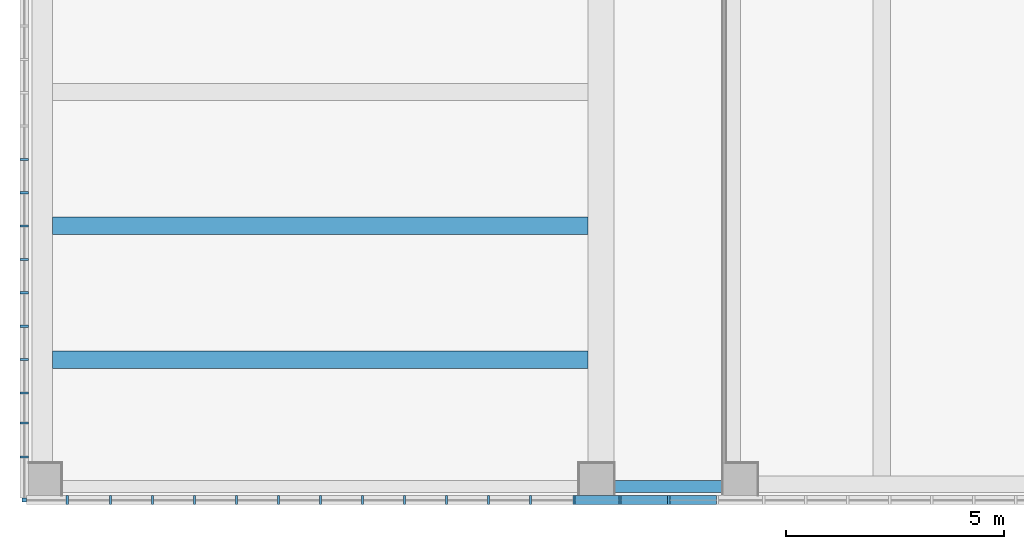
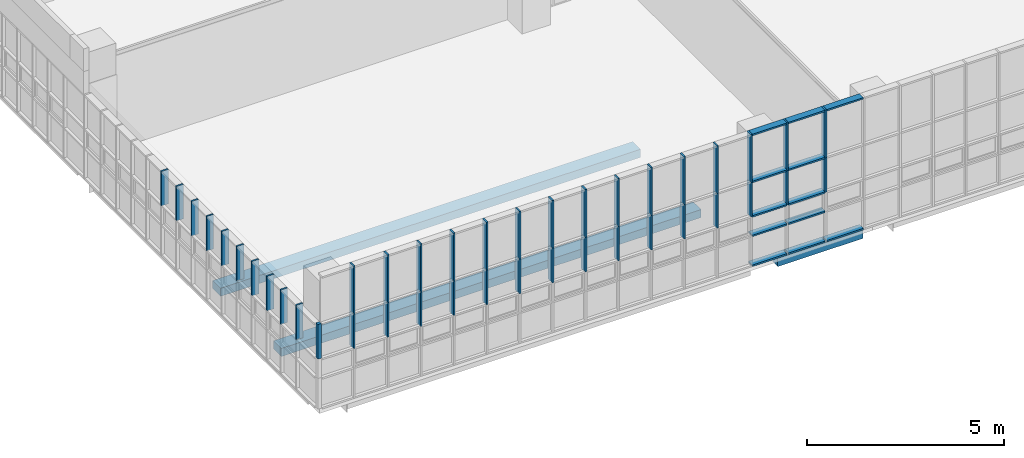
# One storey, part 2 of 76: 53 members, 3 beams, 2 elements without a shape of their own.
"""IFC2X3 building model written with IfcOpenShell, lengths in millimetres."""

from ifc_helpers import new_model, entity, si_unit, converted_unit, derived_unit, direction, frame, frame_2d, origin, origin_2d_with_axis, place, context, subcontext, project, spatial, rectangle, extrude, source, transform, mapped, material, type_object, type_shapes, element, aggregate, save


model = new_model("IFC2X3")

# Units and contexts
model_context = context("Model", 3, precision=0.01, world=origin(), true_north=direction((6.123031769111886e-17, 1.0)))
body_context = subcontext(model_context, "Body", "Model", "MODEL_VIEW")
ifc_project = project(units=[si_unit("LENGTHUNIT", "METRE", prefix="MILLI"), si_unit("AREAUNIT", "SQUARE_METRE"), si_unit("VOLUMEUNIT", "CUBIC_METRE"), converted_unit("PLANEANGLEUNIT", "DEGREE", entity("IfcRatioMeasure", 0.017453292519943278), si_unit("PLANEANGLEUNIT", "RADIAN"), dimensions=[0, 0, 0, 0, 0, 0, 0]), si_unit("MASSUNIT", "GRAM", prefix="KILO"), derived_unit("MASSDENSITYUNIT", [(si_unit("MASSUNIT", "GRAM", prefix="KILO"), 1), (si_unit("LENGTHUNIT", "METRE"), -3)]), derived_unit("MOMENTOFINERTIAUNIT", [(si_unit("LENGTHUNIT", "METRE"), 4)]), si_unit("TIMEUNIT", "SECOND"), si_unit("FREQUENCYUNIT", "HERTZ"), si_unit("THERMODYNAMICTEMPERATUREUNIT", "DEGREE_CELSIUS"), derived_unit("THERMALTRANSMITTANCEUNIT", [(si_unit("MASSUNIT", "GRAM", prefix="KILO"), 1), (si_unit("THERMODYNAMICTEMPERATUREUNIT", "KELVIN"), -1), (si_unit("TIMEUNIT", "SECOND"), -3)]), derived_unit("VOLUMETRICFLOWRATEUNIT", [(si_unit("LENGTHUNIT", "METRE"), 3), (si_unit("TIMEUNIT", "SECOND"), -1)]), derived_unit("MASSFLOWRATEUNIT", [(si_unit("MASSUNIT", "GRAM", prefix="KILO"), 1), (si_unit("TIMEUNIT", "SECOND"), -1)]), derived_unit("ROTATIONALFREQUENCYUNIT", [(si_unit("TIMEUNIT", "SECOND"), -1)]), si_unit("ELECTRICCURRENTUNIT", "AMPERE"), si_unit("ELECTRICVOLTAGEUNIT", "VOLT"), si_unit("POWERUNIT", "WATT"), si_unit("FORCEUNIT", "NEWTON", prefix="KILO"), si_unit("ILLUMINANCEUNIT", "LUX"), si_unit("LUMINOUSFLUXUNIT", "LUMEN"), si_unit("LUMINOUSINTENSITYUNIT", "CANDELA"), derived_unit("USERDEFINED", [(si_unit("MASSUNIT", "GRAM", prefix="KILO"), -1), (si_unit("LENGTHUNIT", "METRE"), -2), (si_unit("TIMEUNIT", "SECOND"), 3), (si_unit("LUMINOUSFLUXUNIT", "LUMEN"), 1)]), derived_unit("SOUNDPOWERUNIT", [(si_unit("MASSUNIT", "GRAM", prefix="KILO"), 1), (si_unit("LENGTHUNIT", "METRE"), 2), (si_unit("TIMEUNIT", "SECOND"), -3)]), derived_unit("SOUNDPRESSUREUNIT", [(si_unit("MASSUNIT", "GRAM", prefix="KILO"), 1), (si_unit("LENGTHUNIT", "METRE"), -1), (si_unit("TIMEUNIT", "SECOND"), -2)]), derived_unit("LINEARVELOCITYUNIT", [(si_unit("LENGTHUNIT", "METRE"), 1), (si_unit("TIMEUNIT", "SECOND"), -1)]), si_unit("PRESSUREUNIT", "PASCAL"), derived_unit("USERDEFINED", [(si_unit("LENGTHUNIT", "METRE"), -2), (si_unit("MASSUNIT", "GRAM", prefix="KILO"), 1), (si_unit("TIMEUNIT", "SECOND"), -2)]), derived_unit("LINEARFORCEUNIT", [(si_unit("MASSUNIT", "GRAM", prefix="KILO"), 1), (si_unit("LENGTHUNIT", "METRE"), 1), (si_unit("TIMEUNIT", "SECOND"), -2), (si_unit("LENGTHUNIT", "METRE"), -1)]), derived_unit("PLANARFORCEUNIT", [(si_unit("MASSUNIT", "GRAM", prefix="KILO"), 1), (si_unit("LENGTHUNIT", "METRE"), 1), (si_unit("TIMEUNIT", "SECOND"), -2), (si_unit("LENGTHUNIT", "METRE"), -2)])], contexts=[model_context])

# Site, building, storey
site_placement = place(None, frame((-14167.972527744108, -657.2125860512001, 0.0)))
site = spatial("IfcSite", under=ifc_project, at=site_placement, Name="Default", CompositionType="ELEMENT")
building_placement = place(site_placement, origin())
building = spatial("IfcBuilding", under=site, at=building_placement, Name="Sample Building", CompositionType="ELEMENT")
storey_placement = place(building_placement, frame((0.0, 0.0, 9300.0)))
storey = spatial("IfcBuildingStorey", under=building, at=storey_placement, Name="지상 3층", CompositionType="ELEMENT", Elevation=9300.000000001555)

# Curtain wall, members
curtain_wall_type = type_object("IfcCurtainWallType", Name="커튼월:CW112-스테인리스 스틸 커튼월", PredefinedType="NOTDEFINED")
curtain_wall_1_placement = place(storey_placement, frame((0.0, 0.0, -9300.0)))
curtain_wall_1 = element("IfcCurtainWall", 1, at=curtain_wall_1_placement, inside=storey, type_object=curtain_wall_type, Name="커튼월:CW112-스테인리스 스틸 커튼월", ObjectType="커튼월:CW112-스테인리스 스틸 커튼월")
ifc_material_1 = material(Name="<Unnamed>")
member_type_1 = type_object("IfcMemberType", Name="직사각형 멀리언:CW200-직사각형 멀리언 100 x 100mm", PredefinedType="MULLION", material=ifc_material_1)
shared_shape_1 = source(origin(), body_context, "Body", "SweptSolid", [
    extrude(rectangle(XDim=100.0, YDim=100.0, at=origin_2d_with_axis()), frame((-50.0, 0.0, -1070.0), z_axis=(0.0, 0.0, 1.0), x_axis=(0.0, -1.0, 0.0)), (0.0, 0.0, 1.0), 1070.000000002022),
])
type_shapes(member_type_1, [shared_shape_1])
member_1_placement = place(curtain_wall_1_placement, frame((14018.587904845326, 457.4731922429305, 10930.0), z_axis=(0.0, 0.0, -1.0), x_axis=(0.0, -1.0, 0.0)))
member_1 = element("IfcMember", 2, at=member_1_placement, type_object=member_type_1, material=ifc_material_1, Name="직사각형 멀리언:CW200-직사각형 멀리언 100 x 100mm", ObjectType="직사각형 멀리언:CW200-직사각형 멀리언 100 x 100mm", context=body_context, shape_type="MappedRepresentation", body=[
    mapped(shared_shape_1, transform((0.0, 0.0, 0.0), scale=1.0)),
])
member_type_2 = type_object("IfcMemberType", Name="직사각형 멀리언:CW200-직사각형 멀리언 50x200mm", PredefinedType="MULLION", material=ifc_material_1)
shared_shape_2 = source(origin(), body_context, "Body", "SweptSolid", [
    extrude(rectangle(XDim=200.0, YDim=50.0, at=origin_2d_with_axis()), frame((0.0, 0.0, -1070.0), z_axis=(0.0, 0.0, 1.0), x_axis=(0.0, -1.0, 0.0)), (0.0, 0.0, 1.0), 1070.000000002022),
])
type_shapes(member_type_2, [shared_shape_2])
member_2_placement = place(curtain_wall_1_placement, frame((14018.587904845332, 3735.8177070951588, 10930.0), z_axis=(0.0, 0.0, -1.0), x_axis=(0.0, -1.0, 0.0)))
member_2 = element("IfcMember", 3, at=member_2_placement, type_object=member_type_2, material=ifc_material_1, Name="직사각형 멀리언:CW200-직사각형 멀리언 50x200mm", ObjectType="직사각형 멀리언:CW200-직사각형 멀리언 50x200mm", context=body_context, shape_type="MappedRepresentation", body=[
    mapped(shared_shape_2, transform((0.0, 0.0, 0.0), scale=1.0)),
])
member_3_placement = place(curtain_wall_1_placement, frame((14018.587904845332, 2969.8177070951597, 10930.0), z_axis=(0.0, 0.0, -1.0), x_axis=(0.0, -1.0, 0.0)))
member_3 = element("IfcMember", 4, at=member_3_placement, type_object=member_type_2, material=ifc_material_1, Name="직사각형 멀리언:CW200-직사각형 멀리언 50x200mm", ObjectType="직사각형 멀리언:CW200-직사각형 멀리언 50x200mm", context=body_context, shape_type="MappedRepresentation", body=[
    mapped(shared_shape_2, transform((0.0, 0.0, 0.0), scale=1.0)),
])
member_4_placement = place(curtain_wall_1_placement, frame((14018.587904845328, 2277.817707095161, 10930.0), z_axis=(0.0, 0.0, -1.0), x_axis=(0.0, -1.0, 0.0)))
member_4 = element("IfcMember", 5, at=member_4_placement, type_object=member_type_2, material=ifc_material_1, Name="직사각형 멀리언:CW200-직사각형 멀리언 50x200mm", ObjectType="직사각형 멀리언:CW200-직사각형 멀리언 50x200mm", context=body_context, shape_type="MappedRepresentation", body=[
    mapped(shared_shape_2, transform((0.0, 0.0, 0.0), scale=1.0)),
])
member_5_placement = place(curtain_wall_1_placement, frame((14018.587904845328, 1494.8177070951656, 10930.0), z_axis=(0.0, 0.0, -1.0), x_axis=(0.0, -1.0, 0.0)))
member_5 = element("IfcMember", 6, at=member_5_placement, type_object=member_type_2, material=ifc_material_1, Name="직사각형 멀리언:CW200-직사각형 멀리언 50x200mm", ObjectType="직사각형 멀리언:CW200-직사각형 멀리언 50x200mm", context=body_context, shape_type="MappedRepresentation", body=[
    mapped(shared_shape_2, transform((0.0, 0.0, 0.0), scale=1.0)),
])
member_6_placement = place(curtain_wall_1_placement, frame((14018.587904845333, 4501.817707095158, 10930.0), z_axis=(0.0, 0.0, -1.0), x_axis=(0.0, -1.0, 0.0)))
member_6 = element("IfcMember", 7, at=member_6_placement, type_object=member_type_2, material=ifc_material_1, Name="직사각형 멀리언:CW200-직사각형 멀리언 50x200mm", ObjectType="직사각형 멀리언:CW200-직사각형 멀리언 50x200mm", context=body_context, shape_type="MappedRepresentation", body=[
    mapped(shared_shape_2, transform((0.0, 0.0, 0.0), scale=1.0)),
])
member_7_placement = place(curtain_wall_1_placement, frame((14018.587904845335, 5267.817707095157, 10930.0), z_axis=(0.0, 0.0, -1.0), x_axis=(0.0, -1.0, 0.0)))
member_7 = element("IfcMember", 8, at=member_7_placement, type_object=member_type_2, material=ifc_material_1, Name="직사각형 멀리언:CW200-직사각형 멀리언 50x200mm", ObjectType="직사각형 멀리언:CW200-직사각형 멀리언 50x200mm", context=body_context, shape_type="MappedRepresentation", body=[
    mapped(shared_shape_2, transform((0.0, 0.0, 0.0), scale=1.0)),
])
member_8_placement = place(curtain_wall_1_placement, frame((14018.587904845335, 6033.817707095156, 10930.0), z_axis=(0.0, 0.0, -1.0), x_axis=(0.0, -1.0, 0.0)))
member_8 = element("IfcMember", 9, at=member_8_placement, type_object=member_type_2, material=ifc_material_1, Name="직사각형 멀리언:CW200-직사각형 멀리언 50x200mm", ObjectType="직사각형 멀리언:CW200-직사각형 멀리언 50x200mm", context=body_context, shape_type="MappedRepresentation", body=[
    mapped(shared_shape_2, transform((0.0, 0.0, 0.0), scale=1.0)),
])
member_9_placement = place(curtain_wall_1_placement, frame((14018.587904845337, 6799.817707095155, 10930.0), z_axis=(0.0, 0.0, -1.0), x_axis=(0.0, -1.0, 0.0)))
member_9 = element("IfcMember", 10, at=member_9_placement, type_object=member_type_2, material=ifc_material_1, Name="직사각형 멀리언:CW200-직사각형 멀리언 50x200mm", ObjectType="직사각형 멀리언:CW200-직사각형 멀리언 50x200mm", context=body_context, shape_type="MappedRepresentation", body=[
    mapped(shared_shape_2, transform((0.0, 0.0, 0.0), scale=1.0)),
])
member_10_placement = place(curtain_wall_1_placement, frame((14018.587904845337, 7565.817707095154, 10930.0), z_axis=(0.0, 0.0, -1.0), x_axis=(0.0, -1.0, 0.0)))
member_10 = element("IfcMember", 11, at=member_10_placement, type_object=member_type_2, material=ifc_material_1, Name="직사각형 멀리언:CW200-직사각형 멀리언 50x200mm", ObjectType="직사각형 멀리언:CW200-직사각형 멀리언 50x200mm", context=body_context, shape_type="MappedRepresentation", body=[
    mapped(shared_shape_2, transform((0.0, 0.0, 0.0), scale=1.0)),
])
member_11_placement = place(curtain_wall_1_placement, frame((14018.587904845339, 8331.817707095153, 10930.0), z_axis=(0.0, 0.0, -1.0), x_axis=(0.0, -1.0, 0.0)))
member_11 = element("IfcMember", 12, at=member_11_placement, type_object=member_type_2, material=ifc_material_1, Name="직사각형 멀리언:CW200-직사각형 멀리언 50x200mm", ObjectType="직사각형 멀리언:CW200-직사각형 멀리언 50x200mm", context=body_context, shape_type="MappedRepresentation", body=[
    mapped(shared_shape_2, transform((0.0, 0.0, 0.0), scale=1.0)),
])
aggregate(curtain_wall_1, [member_1, member_2, member_3, member_4, member_5, member_6, member_7, member_8, member_9, member_10, member_11])

curtain_wall_2_placement = place(storey_placement, frame((0.0, 0.0, -9300.0)))
curtain_wall_2 = element("IfcCurtainWall", 13, at=curtain_wall_2_placement, inside=storey, type_object=curtain_wall_type, Name="커튼월:CW112-스테인리스 스틸 커튼월", ObjectType="커튼월:CW112-스테인리스 스틸 커튼월")
member_type_3 = type_object("IfcMemberType", Name="직사각형 멀리언:CW200-직사각형 멀리언 50x200mm", PredefinedType="MULLION", material=ifc_material_1)
shared_shape_3 = source(origin(), body_context, "Body", "SweptSolid", [
    extrude(rectangle(XDim=200.0, YDim=50.0, at=origin_2d_with_axis()), frame((0.0, 0.0, -1070.0), z_axis=(0.0, 0.0, 1.0), x_axis=(0.0, -1.0, 0.0)), (0.0, 0.0, 1.0), 1070.000000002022),
])
type_shapes(member_type_3, [shared_shape_3])
member_12_placement = place(curtain_wall_2_placement, frame((15005.156070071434, 507.21229514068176, 10930.0), z_axis=(0.0, 0.0, -1.0), x_axis=(1.0, 0.0, 0.0)))
member_12 = element("IfcMember", 14, at=member_12_placement, type_object=member_type_3, material=ifc_material_1, Name="직사각형 멀리언:CW200-직사각형 멀리언 50x200mm", ObjectType="직사각형 멀리언:CW200-직사각형 멀리언 50x200mm", context=body_context, shape_type="MappedRepresentation", body=[
    mapped(shared_shape_3, transform((0.0, 0.0, 0.0), scale=1.0)),
])
member_13_placement = place(curtain_wall_2_placement, frame((16000.156070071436, 507.2122951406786, 10930.0), z_axis=(0.0, 0.0, -1.0), x_axis=(1.0, 0.0, 0.0)))
member_13 = element("IfcMember", 15, at=member_13_placement, type_object=member_type_3, material=ifc_material_1, Name="직사각형 멀리언:CW200-직사각형 멀리언 50x200mm", ObjectType="직사각형 멀리언:CW200-직사각형 멀리언 50x200mm", context=body_context, shape_type="MappedRepresentation", body=[
    mapped(shared_shape_3, transform((0.0, 0.0, 0.0), scale=1.0)),
])
member_14_placement = place(curtain_wall_2_placement, frame((16965.156070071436, 507.21229514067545, 10930.0), z_axis=(0.0, 0.0, -1.0), x_axis=(1.0, 0.0, 0.0)))
member_14 = element("IfcMember", 16, at=member_14_placement, type_object=member_type_3, material=ifc_material_1, Name="직사각형 멀리언:CW200-직사각형 멀리언 50x200mm", ObjectType="직사각형 멀리언:CW200-직사각형 멀리언 50x200mm", context=body_context, shape_type="MappedRepresentation", body=[
    mapped(shared_shape_3, transform((0.0, 0.0, 0.0), scale=1.0)),
])
member_15_placement = place(curtain_wall_2_placement, frame((17930.156070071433, 507.2122951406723, 10930.0), z_axis=(0.0, 0.0, -1.0), x_axis=(1.0, 0.0, 0.0)))
member_15 = element("IfcMember", 17, at=member_15_placement, type_object=member_type_3, material=ifc_material_1, Name="직사각형 멀리언:CW200-직사각형 멀리언 50x200mm", ObjectType="직사각형 멀리언:CW200-직사각형 멀리언 50x200mm", context=body_context, shape_type="MappedRepresentation", body=[
    mapped(shared_shape_3, transform((0.0, 0.0, 0.0), scale=1.0)),
])
member_16_placement = place(curtain_wall_2_placement, frame((18895.156070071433, 507.2122951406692, 10930.0), z_axis=(0.0, 0.0, -1.0), x_axis=(1.0, 0.0, 0.0)))
member_16 = element("IfcMember", 18, at=member_16_placement, type_object=member_type_3, material=ifc_material_1, Name="직사각형 멀리언:CW200-직사각형 멀리언 50x200mm", ObjectType="직사각형 멀리언:CW200-직사각형 멀리언 50x200mm", context=body_context, shape_type="MappedRepresentation", body=[
    mapped(shared_shape_3, transform((0.0, 0.0, 0.0), scale=1.0)),
])
member_17_placement = place(curtain_wall_2_placement, frame((19860.156070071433, 507.212295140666, 10930.0), z_axis=(0.0, 0.0, -1.0), x_axis=(1.0, 0.0, 0.0)))
member_17 = element("IfcMember", 19, at=member_17_placement, type_object=member_type_3, material=ifc_material_1, Name="직사각형 멀리언:CW200-직사각형 멀리언 50x200mm", ObjectType="직사각형 멀리언:CW200-직사각형 멀리언 50x200mm", context=body_context, shape_type="MappedRepresentation", body=[
    mapped(shared_shape_3, transform((0.0, 0.0, 0.0), scale=1.0)),
])
member_18_placement = place(curtain_wall_2_placement, frame((20825.156070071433, 507.21229514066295, 10930.0), z_axis=(0.0, 0.0, -1.0), x_axis=(1.0, 0.0, 0.0)))
member_18 = element("IfcMember", 20, at=member_18_placement, type_object=member_type_3, material=ifc_material_1, Name="직사각형 멀리언:CW200-직사각형 멀리언 50x200mm", ObjectType="직사각형 멀리언:CW200-직사각형 멀리언 50x200mm", context=body_context, shape_type="MappedRepresentation", body=[
    mapped(shared_shape_3, transform((0.0, 0.0, 0.0), scale=1.0)),
])
member_19_placement = place(curtain_wall_2_placement, frame((21790.156070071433, 507.2122951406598, 10930.0), z_axis=(0.0, 0.0, -1.0), x_axis=(1.0, 0.0, 0.0)))
member_19 = element("IfcMember", 21, at=member_19_placement, type_object=member_type_3, material=ifc_material_1, Name="직사각형 멀리언:CW200-직사각형 멀리언 50x200mm", ObjectType="직사각형 멀리언:CW200-직사각형 멀리언 50x200mm", context=body_context, shape_type="MappedRepresentation", body=[
    mapped(shared_shape_3, transform((0.0, 0.0, 0.0), scale=1.0)),
])
member_20_placement = place(curtain_wall_2_placement, frame((22755.156070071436, 507.2122951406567, 10930.0), z_axis=(0.0, 0.0, -1.0), x_axis=(1.0, 0.0, 0.0)))
member_20 = element("IfcMember", 22, at=member_20_placement, type_object=member_type_3, material=ifc_material_1, Name="직사각형 멀리언:CW200-직사각형 멀리언 50x200mm", ObjectType="직사각형 멀리언:CW200-직사각형 멀리언 50x200mm", context=body_context, shape_type="MappedRepresentation", body=[
    mapped(shared_shape_3, transform((0.0, 0.0, 0.0), scale=1.0)),
])
member_21_placement = place(curtain_wall_2_placement, frame((23720.156070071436, 507.21229514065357, 10930.0), z_axis=(0.0, 0.0, -1.0), x_axis=(1.0, 0.0, 0.0)))
member_21 = element("IfcMember", 23, at=member_21_placement, type_object=member_type_3, material=ifc_material_1, Name="직사각형 멀리언:CW200-직사각형 멀리언 50x200mm", ObjectType="직사각형 멀리언:CW200-직사각형 멀리언 50x200mm", context=body_context, shape_type="MappedRepresentation", body=[
    mapped(shared_shape_3, transform((0.0, 0.0, 0.0), scale=1.0)),
])
member_22_placement = place(curtain_wall_2_placement, frame((24685.15607007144, 507.2122951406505, 10930.0), z_axis=(0.0, 0.0, -1.0), x_axis=(1.0, 0.0, 0.0)))
member_22 = element("IfcMember", 24, at=member_22_placement, type_object=member_type_3, material=ifc_material_1, Name="직사각형 멀리언:CW200-직사각형 멀리언 50x200mm", ObjectType="직사각형 멀리언:CW200-직사각형 멀리언 50x200mm", context=body_context, shape_type="MappedRepresentation", body=[
    mapped(shared_shape_3, transform((0.0, 0.0, 0.0), scale=1.0)),
])
member_23_placement = place(curtain_wall_2_placement, frame((25650.156070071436, 507.21229514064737, 10930.0), z_axis=(0.0, 0.0, -1.0), x_axis=(1.0, 0.0, 0.0)))
member_23 = element("IfcMember", 25, at=member_23_placement, type_object=member_type_3, material=ifc_material_1, Name="직사각형 멀리언:CW200-직사각형 멀리언 50x200mm", ObjectType="직사각형 멀리언:CW200-직사각형 멀리언 50x200mm", context=body_context, shape_type="MappedRepresentation", body=[
    mapped(shared_shape_3, transform((0.0, 0.0, 0.0), scale=1.0)),
])
member_24_placement = place(curtain_wall_2_placement, frame((26645.156070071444, 507.2122951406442, 10930.0), z_axis=(0.0, 0.0, -1.0), x_axis=(1.0, 0.0, 0.0)))
member_24 = element("IfcMember", 26, at=member_24_placement, type_object=member_type_3, material=ifc_material_1, Name="직사각형 멀리언:CW200-직사각형 멀리언 50x200mm", ObjectType="직사각형 멀리언:CW200-직사각형 멀리언 50x200mm", context=body_context, shape_type="MappedRepresentation", body=[
    mapped(shared_shape_3, transform((0.0, 0.0, 0.0), scale=1.0)),
])
member_25_placement = place(curtain_wall_2_placement, frame((27705.15607007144, 507.2122951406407, 10930.0), z_axis=(0.0, 0.0, -1.0), x_axis=(1.0, 0.0, 0.0)))
member_25 = element("IfcMember", 27, at=member_25_placement, type_object=member_type_3, material=ifc_material_1, Name="직사각형 멀리언:CW200-직사각형 멀리언 50x200mm", ObjectType="직사각형 멀리언:CW200-직사각형 멀리언 50x200mm", context=body_context, shape_type="MappedRepresentation", body=[
    mapped(shared_shape_3, transform((0.0, 0.0, 0.0), scale=1.0)),
])
member_26_placement = place(curtain_wall_2_placement, frame((28825.156070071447, 507.21229514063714, 10930.0), z_axis=(0.0, 0.0, -1.0), x_axis=(1.0, 0.0, 0.0)))
member_26 = element("IfcMember", 28, at=member_26_placement, type_object=member_type_3, material=ifc_material_1, Name="직사각형 멀리언:CW200-직사각형 멀리언 50x200mm", ObjectType="직사각형 멀리언:CW200-직사각형 멀리언 50x200mm", context=body_context, shape_type="MappedRepresentation", body=[
    mapped(shared_shape_3, transform((0.0, 0.0, 0.0), scale=1.0)),
])
member_type_4 = type_object("IfcMemberType", Name="직사각형 멀리언:CW200-직사각형 멀리언 50x200mm", PredefinedType="MULLION", material=ifc_material_1)
shared_shape_4 = source(origin(), body_context, "Body", "SweptSolid", [
    extrude(rectangle(XDim=200.0, YDim=50.0, at=origin_2d_with_axis()), frame((0.0, 0.0, -1480.0), z_axis=(0.0, 0.0, 1.0), x_axis=(0.0, -1.0, 0.0)), (0.0, 0.0, 1.0), 1479.9999999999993),
])
type_shapes(member_type_4, [shared_shape_4])
member_27_placement = place(curtain_wall_2_placement, frame((15005.156070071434, 507.21229514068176, 12000.0), z_axis=(0.0, 0.0, -1.0), x_axis=(1.0, 0.0, 0.0)))
member_27 = element("IfcMember", 29, at=member_27_placement, type_object=member_type_4, material=ifc_material_1, Name="직사각형 멀리언:CW200-직사각형 멀리언 50x200mm", ObjectType="직사각형 멀리언:CW200-직사각형 멀리언 50x200mm", context=body_context, shape_type="MappedRepresentation", body=[
    mapped(shared_shape_4, transform((0.0, 0.0, 0.0), scale=1.0)),
])
member_28_placement = place(curtain_wall_2_placement, frame((16000.156070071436, 507.2122951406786, 12000.0), z_axis=(0.0, 0.0, -1.0), x_axis=(1.0, 0.0, 0.0)))
member_28 = element("IfcMember", 30, at=member_28_placement, type_object=member_type_4, material=ifc_material_1, Name="직사각형 멀리언:CW200-직사각형 멀리언 50x200mm", ObjectType="직사각형 멀리언:CW200-직사각형 멀리언 50x200mm", context=body_context, shape_type="MappedRepresentation", body=[
    mapped(shared_shape_4, transform((0.0, 0.0, 0.0), scale=1.0)),
])
member_29_placement = place(curtain_wall_2_placement, frame((16965.156070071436, 507.21229514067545, 12000.0), z_axis=(0.0, 0.0, -1.0), x_axis=(1.0, 0.0, 0.0)))
member_29 = element("IfcMember", 31, at=member_29_placement, type_object=member_type_4, material=ifc_material_1, Name="직사각형 멀리언:CW200-직사각형 멀리언 50x200mm", ObjectType="직사각형 멀리언:CW200-직사각형 멀리언 50x200mm", context=body_context, shape_type="MappedRepresentation", body=[
    mapped(shared_shape_4, transform((0.0, 0.0, 0.0), scale=1.0)),
])
member_30_placement = place(curtain_wall_2_placement, frame((17930.156070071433, 507.2122951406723, 12000.0), z_axis=(0.0, 0.0, -1.0), x_axis=(1.0, 0.0, 0.0)))
member_30 = element("IfcMember", 32, at=member_30_placement, type_object=member_type_4, material=ifc_material_1, Name="직사각형 멀리언:CW200-직사각형 멀리언 50x200mm", ObjectType="직사각형 멀리언:CW200-직사각형 멀리언 50x200mm", context=body_context, shape_type="MappedRepresentation", body=[
    mapped(shared_shape_4, transform((0.0, 0.0, 0.0), scale=1.0)),
])
member_31_placement = place(curtain_wall_2_placement, frame((18895.156070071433, 507.2122951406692, 12000.0), z_axis=(0.0, 0.0, -1.0), x_axis=(1.0, 0.0, 0.0)))
member_31 = element("IfcMember", 33, at=member_31_placement, type_object=member_type_4, material=ifc_material_1, Name="직사각형 멀리언:CW200-직사각형 멀리언 50x200mm", ObjectType="직사각형 멀리언:CW200-직사각형 멀리언 50x200mm", context=body_context, shape_type="MappedRepresentation", body=[
    mapped(shared_shape_4, transform((0.0, 0.0, 0.0), scale=1.0)),
])
member_32_placement = place(curtain_wall_2_placement, frame((19860.156070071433, 507.212295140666, 12000.0), z_axis=(0.0, 0.0, -1.0), x_axis=(1.0, 0.0, 0.0)))
member_32 = element("IfcMember", 34, at=member_32_placement, type_object=member_type_4, material=ifc_material_1, Name="직사각형 멀리언:CW200-직사각형 멀리언 50x200mm", ObjectType="직사각형 멀리언:CW200-직사각형 멀리언 50x200mm", context=body_context, shape_type="MappedRepresentation", body=[
    mapped(shared_shape_4, transform((0.0, 0.0, 0.0), scale=1.0)),
])
member_33_placement = place(curtain_wall_2_placement, frame((20825.156070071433, 507.21229514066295, 12000.0), z_axis=(0.0, 0.0, -1.0), x_axis=(1.0, 0.0, 0.0)))
member_33 = element("IfcMember", 35, at=member_33_placement, type_object=member_type_4, material=ifc_material_1, Name="직사각형 멀리언:CW200-직사각형 멀리언 50x200mm", ObjectType="직사각형 멀리언:CW200-직사각형 멀리언 50x200mm", context=body_context, shape_type="MappedRepresentation", body=[
    mapped(shared_shape_4, transform((0.0, 0.0, 0.0), scale=1.0)),
])
member_34_placement = place(curtain_wall_2_placement, frame((21790.15607007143, 507.2122951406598, 12000.0), z_axis=(0.0, 0.0, -1.0), x_axis=(1.0, 0.0, 0.0)))
member_34 = element("IfcMember", 36, at=member_34_placement, type_object=member_type_4, material=ifc_material_1, Name="직사각형 멀리언:CW200-직사각형 멀리언 50x200mm", ObjectType="직사각형 멀리언:CW200-직사각형 멀리언 50x200mm", context=body_context, shape_type="MappedRepresentation", body=[
    mapped(shared_shape_4, transform((0.0, 0.0, 0.0), scale=1.0)),
])
member_35_placement = place(curtain_wall_2_placement, frame((22755.156070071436, 507.2122951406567, 12000.0), z_axis=(0.0, 0.0, -1.0), x_axis=(1.0, 0.0, 0.0)))
member_35 = element("IfcMember", 37, at=member_35_placement, type_object=member_type_4, material=ifc_material_1, Name="직사각형 멀리언:CW200-직사각형 멀리언 50x200mm", ObjectType="직사각형 멀리언:CW200-직사각형 멀리언 50x200mm", context=body_context, shape_type="MappedRepresentation", body=[
    mapped(shared_shape_4, transform((0.0, 0.0, 0.0), scale=1.0)),
])
member_36_placement = place(curtain_wall_2_placement, frame((23720.156070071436, 507.21229514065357, 12000.0), z_axis=(0.0, 0.0, -1.0), x_axis=(1.0, 0.0, 0.0)))
member_36 = element("IfcMember", 38, at=member_36_placement, type_object=member_type_4, material=ifc_material_1, Name="직사각형 멀리언:CW200-직사각형 멀리언 50x200mm", ObjectType="직사각형 멀리언:CW200-직사각형 멀리언 50x200mm", context=body_context, shape_type="MappedRepresentation", body=[
    mapped(shared_shape_4, transform((0.0, 0.0, 0.0), scale=1.0)),
])
member_37_placement = place(curtain_wall_2_placement, frame((24685.15607007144, 507.2122951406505, 12000.0), z_axis=(0.0, 0.0, -1.0), x_axis=(1.0, 0.0, 0.0)))
member_37 = element("IfcMember", 39, at=member_37_placement, type_object=member_type_4, material=ifc_material_1, Name="직사각형 멀리언:CW200-직사각형 멀리언 50x200mm", ObjectType="직사각형 멀리언:CW200-직사각형 멀리언 50x200mm", context=body_context, shape_type="MappedRepresentation", body=[
    mapped(shared_shape_4, transform((0.0, 0.0, 0.0), scale=1.0)),
])
member_38_placement = place(curtain_wall_2_placement, frame((25650.156070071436, 507.21229514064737, 12000.0), z_axis=(0.0, 0.0, -1.0), x_axis=(1.0, 0.0, 0.0)))
member_38 = element("IfcMember", 40, at=member_38_placement, type_object=member_type_4, material=ifc_material_1, Name="직사각형 멀리언:CW200-직사각형 멀리언 50x200mm", ObjectType="직사각형 멀리언:CW200-직사각형 멀리언 50x200mm", context=body_context, shape_type="MappedRepresentation", body=[
    mapped(shared_shape_4, transform((0.0, 0.0, 0.0), scale=1.0)),
])
member_39_placement = place(curtain_wall_2_placement, frame((26645.156070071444, 507.2122951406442, 12000.0), z_axis=(0.0, 0.0, -1.0), x_axis=(1.0, 0.0, 0.0)))
member_39 = element("IfcMember", 41, at=member_39_placement, type_object=member_type_4, material=ifc_material_1, Name="직사각형 멀리언:CW200-직사각형 멀리언 50x200mm", ObjectType="직사각형 멀리언:CW200-직사각형 멀리언 50x200mm", context=body_context, shape_type="MappedRepresentation", body=[
    mapped(shared_shape_4, transform((0.0, 0.0, 0.0), scale=1.0)),
])
member_40_placement = place(curtain_wall_2_placement, frame((27705.15607007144, 507.2122951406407, 12000.0), z_axis=(0.0, 0.0, -1.0), x_axis=(1.0, 0.0, 0.0)))
member_40 = element("IfcMember", 42, at=member_40_placement, type_object=member_type_4, material=ifc_material_1, Name="직사각형 멀리언:CW200-직사각형 멀리언 50x200mm", ObjectType="직사각형 멀리언:CW200-직사각형 멀리언 50x200mm", context=body_context, shape_type="MappedRepresentation", body=[
    mapped(shared_shape_4, transform((0.0, 0.0, 0.0), scale=1.0)),
])
member_41_placement = place(curtain_wall_2_placement, frame((28825.156070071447, 507.21229514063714, 12000.0), z_axis=(0.0, 0.0, -1.0), x_axis=(1.0, 0.0, 0.0)))
member_41 = element("IfcMember", 43, at=member_41_placement, type_object=member_type_4, material=ifc_material_1, Name="직사각형 멀리언:CW200-직사각형 멀리언 50x200mm", ObjectType="직사각형 멀리언:CW200-직사각형 멀리언 50x200mm", context=body_context, shape_type="MappedRepresentation", body=[
    mapped(shared_shape_4, transform((0.0, 0.0, 0.0), scale=1.0)),
])
member_type_5 = type_object("IfcMemberType", Name="직사각형 멀리언:CW200-직사각형 멀리언 50x200mm", PredefinedType="MULLION", material=ifc_material_1)
shared_shape_5 = source(origin(), body_context, "Body", "SweptSolid", [
    extrude(rectangle(XDim=200.0, YDim=50.0, at=origin_2d_with_axis()), frame((-25.0, 0.0, -1010.0), z_axis=(0.0, 0.0, 1.0), x_axis=(0.0, -1.0, 0.0)), (0.0, 0.0, 1.0), 1009.9999999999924),
])
type_shapes(member_type_5, [shared_shape_5])
member_42_placement = place(curtain_wall_2_placement, frame((26670.156070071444, 507.21229514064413, 9380.0), z_axis=(-1.0, 0.0, 0.0), x_axis=(0.0, 0.0, -1.0)))
member_42 = element("IfcMember", 44, at=member_42_placement, type_object=member_type_5, material=ifc_material_1, Name="직사각형 멀리언:CW200-직사각형 멀리언 50x200mm", ObjectType="직사각형 멀리언:CW200-직사각형 멀리언 50x200mm", context=body_context, shape_type="MappedRepresentation", body=[
    mapped(shared_shape_5, transform((0.0, 0.0, 0.0), scale=1.0)),
])
member_type_6 = type_object("IfcMemberType", Name="직사각형 멀리언:CW200-직사각형 멀리언 50x200mm", PredefinedType="MULLION", material=ifc_material_1)
shared_shape_6 = source(origin(), body_context, "Body", "SweptSolid", [
    extrude(rectangle(XDim=200.0, YDim=50.0, at=origin_2d_with_axis()), frame((0.0, 0.0, -1010.0), z_axis=(0.0, 0.0, 1.0), x_axis=(0.0, -1.0, 0.0)), (0.0, 0.0, 1.0), 1009.9999999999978),
])
type_shapes(member_type_6, [shared_shape_6])
member_43_placement = place(curtain_wall_2_placement, frame((27680.156070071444, 507.2122951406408, 10330.0), z_axis=(1.0, 0.0, 0.0), x_axis=(0.0, 0.0, 1.0)))
member_43 = element("IfcMember", 45, at=member_43_placement, type_object=member_type_6, material=ifc_material_1, Name="직사각형 멀리언:CW200-직사각형 멀리언 50x200mm", ObjectType="직사각형 멀리언:CW200-직사각형 멀리언 50x200mm", context=body_context, shape_type="MappedRepresentation", body=[
    mapped(shared_shape_6, transform((0.0, 0.0, 0.0), scale=1.0)),
])
member_44_placement = place(curtain_wall_2_placement, frame((27680.156070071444, 507.2122951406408, 10930.0), z_axis=(1.0, 0.0, 0.0), x_axis=(0.0, 0.0, 1.0)))
member_44 = element("IfcMember", 46, at=member_44_placement, type_object=member_type_6, material=ifc_material_1, Name="직사각형 멀리언:CW200-직사각형 멀리언 50x200mm", ObjectType="직사각형 멀리언:CW200-직사각형 멀리언 50x200mm", context=body_context, shape_type="MappedRepresentation", body=[
    mapped(shared_shape_6, transform((0.0, 0.0, 0.0), scale=1.0)),
])
member_45_placement = place(curtain_wall_2_placement, frame((27680.156070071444, 507.2122951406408, 12000.0), z_axis=(1.0, 0.0, 0.0), x_axis=(0.0, 0.0, 1.0)))
member_45 = element("IfcMember", 47, at=member_45_placement, type_object=member_type_6, material=ifc_material_1, Name="직사각형 멀리언:CW200-직사각형 멀리언 50x200mm", ObjectType="직사각형 멀리언:CW200-직사각형 멀리언 50x200mm", context=body_context, shape_type="MappedRepresentation", body=[
    mapped(shared_shape_6, transform((0.0, 0.0, 0.0), scale=1.0)),
])
member_type_7 = type_object("IfcMemberType", Name="직사각형 멀리언:CW200-직사각형 멀리언 50x200mm", PredefinedType="MULLION", material=ifc_material_1)
shared_shape_7 = source(origin(), body_context, "Body", "SweptSolid", [
    extrude(rectangle(XDim=200.0, YDim=50.0, at=origin_2d_with_axis()), frame((-25.0, 0.0, -1010.0), z_axis=(0.0, 0.0, 1.0), x_axis=(0.0, -1.0, 0.0)), (0.0, 0.0, 1.0), 1009.9999999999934),
])
type_shapes(member_type_7, [shared_shape_7])
member_46_placement = place(curtain_wall_2_placement, frame((27680.15607007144, 507.2122951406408, 13480.0), z_axis=(1.0, 0.0, 0.0), x_axis=(0.0, 0.0, 1.0)))
member_46 = element("IfcMember", 48, at=member_46_placement, type_object=member_type_7, material=ifc_material_1, Name="직사각형 멀리언:CW200-직사각형 멀리언 50x200mm", ObjectType="직사각형 멀리언:CW200-직사각형 멀리언 50x200mm", context=body_context, shape_type="MappedRepresentation", body=[
    mapped(shared_shape_7, transform((0.0, 0.0, 0.0), scale=1.0)),
])
member_type_8 = type_object("IfcMemberType", Name="직사각형 멀리언:CW200-직사각형 멀리언 50x200mm", PredefinedType="MULLION", material=ifc_material_1)
shared_shape_8 = source(origin(), body_context, "Body", "SweptSolid", [
    extrude(rectangle(XDim=200.0, YDim=50.0, at=origin_2d_with_axis()), frame((-25.0, 0.0, -1070.0), z_axis=(0.0, 0.0, 1.0), x_axis=(0.0, -1.0, 0.0)), (0.0, 0.0, 1.0), 1070.000000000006),
])
type_shapes(member_type_8, [shared_shape_8])
member_47_placement = place(curtain_wall_2_placement, frame((28800.156070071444, 507.2122951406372, 13480.0), z_axis=(1.0, 0.0, 0.0), x_axis=(0.0, 0.0, 1.0)))
member_47 = element("IfcMember", 49, at=member_47_placement, type_object=member_type_8, material=ifc_material_1, Name="직사각형 멀리언:CW200-직사각형 멀리언 50x200mm", ObjectType="직사각형 멀리언:CW200-직사각형 멀리언 50x200mm", context=body_context, shape_type="MappedRepresentation", body=[
    mapped(shared_shape_8, transform((0.0, 0.0, 0.0), scale=1.0)),
])
member_48_placement = place(curtain_wall_2_placement, frame((29920.156070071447, 507.21229514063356, 13480.0), z_axis=(1.0, 0.0, 0.0), x_axis=(0.0, 0.0, 1.0)))
member_48 = element("IfcMember", 50, at=member_48_placement, type_object=member_type_8, material=ifc_material_1, Name="직사각형 멀리언:CW200-직사각형 멀리언 50x200mm", ObjectType="직사각형 멀리언:CW200-직사각형 멀리언 50x200mm", context=body_context, shape_type="MappedRepresentation", body=[
    mapped(shared_shape_8, transform((0.0, 0.0, 0.0), scale=1.0)),
])
member_type_9 = type_object("IfcMemberType", Name="직사각형 멀리언:CW200-직사각형 멀리언 50x200mm", PredefinedType="MULLION", material=ifc_material_1)
shared_shape_9 = source(origin(), body_context, "Body", "SweptSolid", [
    extrude(rectangle(XDim=200.0, YDim=50.0, at=origin_2d_with_axis()), frame((-25.0, 0.0, -1070.0), z_axis=(0.0, 0.0, 1.0), x_axis=(0.0, -1.0, 0.0)), (0.0, 0.0, 1.0), 1070.000000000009),
])
type_shapes(member_type_9, [shared_shape_9])
member_49_placement = place(curtain_wall_2_placement, frame((27730.156070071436, 507.21229514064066, 9380.0), z_axis=(-1.0, 0.0, 0.0), x_axis=(0.0, 0.0, -1.0)))
member_49 = element("IfcMember", 51, at=member_49_placement, type_object=member_type_9, material=ifc_material_1, Name="직사각형 멀리언:CW200-직사각형 멀리언 50x200mm", ObjectType="직사각형 멀리언:CW200-직사각형 멀리언 50x200mm", context=body_context, shape_type="MappedRepresentation", body=[
    mapped(shared_shape_9, transform((0.0, 0.0, 0.0), scale=1.0)),
])
member_50_placement = place(curtain_wall_2_placement, frame((28850.156070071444, 507.2122951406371, 9380.0), z_axis=(-1.0, 0.0, 0.0), x_axis=(0.0, 0.0, -1.0)))
member_50 = element("IfcMember", 52, at=member_50_placement, type_object=member_type_9, material=ifc_material_1, Name="직사각형 멀리언:CW200-직사각형 멀리언 50x200mm", ObjectType="직사각형 멀리언:CW200-직사각형 멀리언 50x200mm", context=body_context, shape_type="MappedRepresentation", body=[
    mapped(shared_shape_9, transform((0.0, 0.0, 0.0), scale=1.0)),
])
member_type_10 = type_object("IfcMemberType", Name="직사각형 멀리언:CW200-직사각형 멀리언 50x200mm", PredefinedType="MULLION", material=ifc_material_1)
shared_shape_10 = source(origin(), body_context, "Body", "SweptSolid", [
    extrude(rectangle(XDim=200.0, YDim=50.0, at=origin_2d_with_axis()), frame((0.0, 0.0, -1070.0), z_axis=(0.0, 0.0, 1.0), x_axis=(0.0, -1.0, 0.0)), (0.0, 0.0, 1.0), 1070.000000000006),
])
type_shapes(member_type_10, [shared_shape_10])
member_51_placement = place(curtain_wall_2_placement, frame((28800.156070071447, 507.2122951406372, 10330.0), z_axis=(1.0, 0.0, 0.0), x_axis=(0.0, 0.0, 1.0)))
member_51 = element("IfcMember", 53, at=member_51_placement, type_object=member_type_10, material=ifc_material_1, Name="직사각형 멀리언:CW200-직사각형 멀리언 50x200mm", ObjectType="직사각형 멀리언:CW200-직사각형 멀리언 50x200mm", context=body_context, shape_type="MappedRepresentation", body=[
    mapped(shared_shape_10, transform((0.0, 0.0, 0.0), scale=1.0)),
])
member_52_placement = place(curtain_wall_2_placement, frame((28800.156070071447, 507.2122951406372, 10930.0), z_axis=(1.0, 0.0, 0.0), x_axis=(0.0, 0.0, 1.0)))
member_52 = element("IfcMember", 54, at=member_52_placement, type_object=member_type_10, material=ifc_material_1, Name="직사각형 멀리언:CW200-직사각형 멀리언 50x200mm", ObjectType="직사각형 멀리언:CW200-직사각형 멀리언 50x200mm", context=body_context, shape_type="MappedRepresentation", body=[
    mapped(shared_shape_10, transform((0.0, 0.0, 0.0), scale=1.0)),
])
member_53_placement = place(curtain_wall_2_placement, frame((28800.156070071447, 507.2122951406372, 12000.0), z_axis=(1.0, 0.0, 0.0), x_axis=(0.0, 0.0, 1.0)))
member_53 = element("IfcMember", 55, at=member_53_placement, type_object=member_type_10, material=ifc_material_1, Name="직사각형 멀리언:CW200-직사각형 멀리언 50x200mm", ObjectType="직사각형 멀리언:CW200-직사각형 멀리언 50x200mm", context=body_context, shape_type="MappedRepresentation", body=[
    mapped(shared_shape_10, transform((0.0, 0.0, 0.0), scale=1.0)),
])
aggregate(curtain_wall_2, [member_12, member_27, member_13, member_28, member_14, member_29, member_15, member_30, member_16, member_31, member_17, member_32, member_18, member_33, member_19, member_34, member_20, member_35, member_21, member_36, member_22, member_37, member_23, member_38, member_42, member_43, member_44, member_45, member_24, member_39, member_46, member_47, member_48, member_49, member_50, member_51, member_52, member_53, member_25, member_26, member_40, member_41])

# Beams
ifc_material_2 = material(Name="KBIMS-콘크리트")
beam_type_1 = type_object("IfcBeamType", Name="BM111-철근콘크리트구조 보:BM110-철근 콘크리트구조 보_400 x 400_2-10G8", PredefinedType="NOTDEFINED")
beam_1_placement = place(storey_placement, frame((30267.946448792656, 757.2126041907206, 0.0), z_axis=(0.0, 0.0, 1.0), x_axis=(-1.0, 0.0, 0.0)))
element("IfcBeam", 56, at=beam_1_placement, inside=storey, type_object=beam_type_1, material=ifc_material_2, Name="BM111-철근콘크리트구조 보:BM110-철근 콘크리트구조 보_400 x 400_2-10G8", ObjectType="BM111-철근콘크리트구조 보:BM110-철근 콘크리트구조 보_400 x 400_2-10G8", context=body_context, shape_type="SweptSolid", body=[
    extrude(rectangle(XDim=250.00000000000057, YDim=275.0003090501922, at=frame_2d((5.400124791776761e-13, 3.993250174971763e-12), x_axis=(1.0, 0.0))), frame((199.9913344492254, -62.49984547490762, -275.0), z_axis=(1.0, 0.0, 0.0), x_axis=(0.0, 0.0, -1.0)), (0.0, 0.0, 1.0), 2499.9999725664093),
])
beam_type_2 = type_object("IfcBeamType", Name="BM111-철근콘크리트구조 보:BM110-철근 콘크리트구조 보_400 x 400_2-10B3", PredefinedType="NOTDEFINED")
beam_2_placement = place(storey_placement, frame((27267.955221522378, 3732.212478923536, 0.0), z_axis=(0.0, 0.0, 1.0), x_axis=(-1.0, 0.0, 0.0)))
element("IfcBeam", 57, at=beam_2_placement, inside=storey, type_object=beam_type_2, material=ifc_material_2, Name="BM111-철근콘크리트구조 보:BM110-철근 콘크리트구조 보_400 x 400_2-10B3", ObjectType="BM111-철근콘크리트구조 보:BM110-철근 콘크리트구조 보_400 x 400_2-10B3", context=body_context, shape_type="SweptSolid", body=[
    extrude(rectangle(XDim=250.00000000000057, YDim=400.0000000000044, at=frame_2d((5.400124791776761e-13, -5.400124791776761e-13), x_axis=(1.0, 0.0))), frame((300.0, 0.0, -275.0), z_axis=(1.0, 0.0, 0.0), x_axis=(0.0, 0.0, -1.0)), (0.0, 0.0, 1.0), 12300.00000000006),
])
beam_3_placement = place(storey_placement, frame((27267.95522152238, 6807.212478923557, 0.0), z_axis=(0.0, 0.0, 1.0), x_axis=(-1.0, 0.0, 0.0)))
element("IfcBeam", 58, at=beam_3_placement, inside=storey, type_object=beam_type_2, material=ifc_material_2, Name="BM111-철근콘크리트구조 보:BM110-철근 콘크리트구조 보_400 x 400_2-10B3", ObjectType="BM111-철근콘크리트구조 보:BM110-철근 콘크리트구조 보_400 x 400_2-10B3", context=body_context, shape_type="SweptSolid", body=[
    extrude(rectangle(XDim=250.00000000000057, YDim=400.0000000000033, at=frame_2d((5.400124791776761e-13, -5.400124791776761e-13), x_axis=(1.0, 0.0))), frame((300.0, 0.0, -275.0), z_axis=(1.0, 0.0, 0.0), x_axis=(0.0, 0.0, -1.0)), (0.0, 0.0, 1.0), 12300.00000000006),
])

save(model, "model.ifc")
